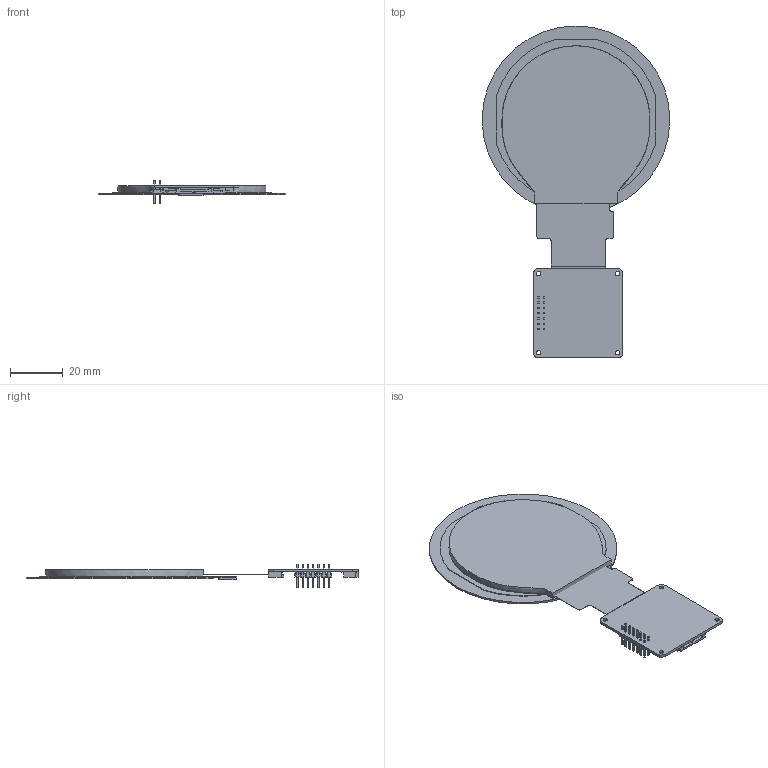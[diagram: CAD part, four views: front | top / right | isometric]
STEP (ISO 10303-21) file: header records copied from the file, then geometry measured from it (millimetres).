
FILE_DESCRIPTION((''),'2;1');
FILE_NAME('TS021WVC02CP-B1323B-V00-241207','2024-12-07T15:45:09',('Shaozi'),(''),'CREO PARAMETRIC BY PTC INC, 2024063','CREO PARAMETRIC BY PTC INC, 2024063','');
FILE_SCHEMA(('AUTOMOTIVE_DESIGN { 1 0 10303 214 1 1 1 1 }'));
Length unit declared in the file: millimetre
Products named in the file (1): TS021WVC02CP-B1323B-V00-241207
Bounding box: 71.27 x 126.02 x 8.8 mm (x, y, z)
Surface area: 19866 mm2 (no closed solid volume)
Topology: 0 solids, 10 shells, 367 faces, 1077 edges, 732 vertices
Faces by surface type: plane 327, cylinder 32, extrusion 8
Entity records: 14417 total; most frequent: CARTESIAN_POINT 2596, ORIENTED_EDGE 1986, DIRECTION 1871, EDGE_CURVE 1077, VECTOR 985, LINE 977, VERTEX_POINT 732, AXIS2_PLACEMENT_3D 443
